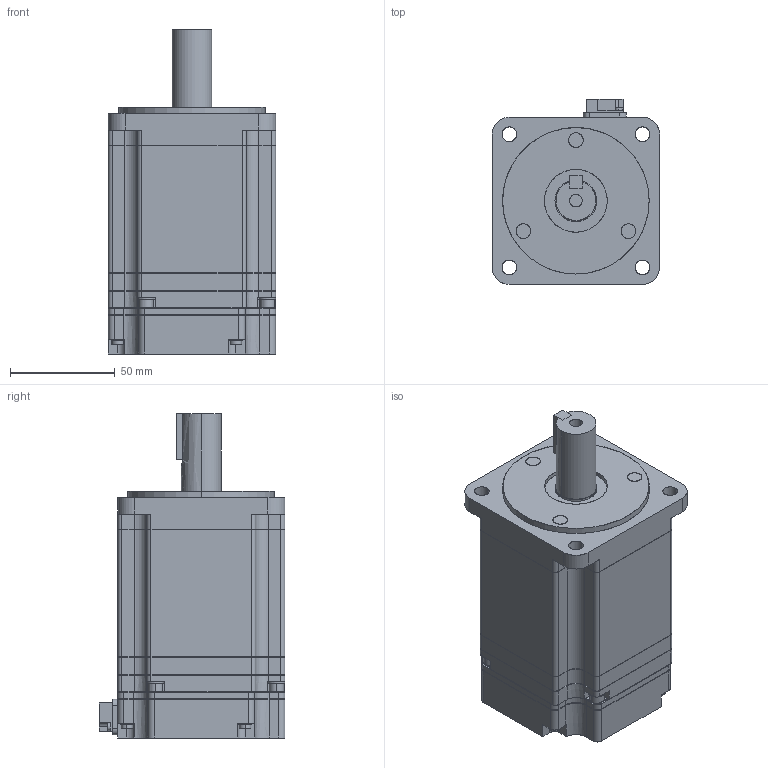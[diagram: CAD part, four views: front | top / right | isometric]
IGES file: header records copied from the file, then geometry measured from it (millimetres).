
Start section: SolidWorks IGES file using analytic representation for surfaces
Global section: file name: C:\YASKAWA\sgmav_08a_a61.IGS; native system: SolidWorks 2006 by SolidWorks Corporation; preprocessor: SolidWorks 2006 by SolidWorks Corporation; author: yamanouchi; date: 080610.210126; units: millimetre
Bounding box: 80.1 x 88.8 x 155.1 mm (x, y, z)
Surface area: 57182 mm2 (no closed solid volume)
Topology: 0 solids, 0 shells, 494 faces, 6722 edges, 6722 vertices
Faces by surface type: bspline 274, revolution 220
